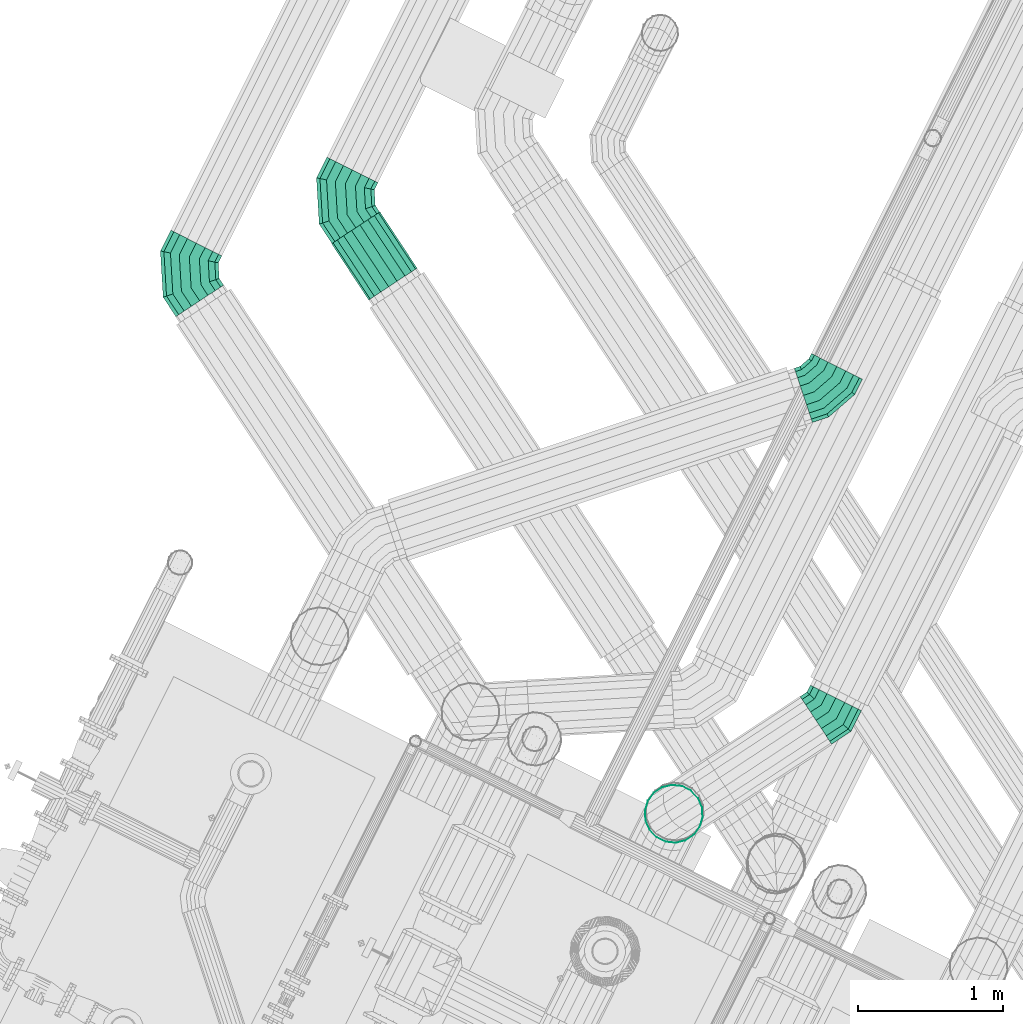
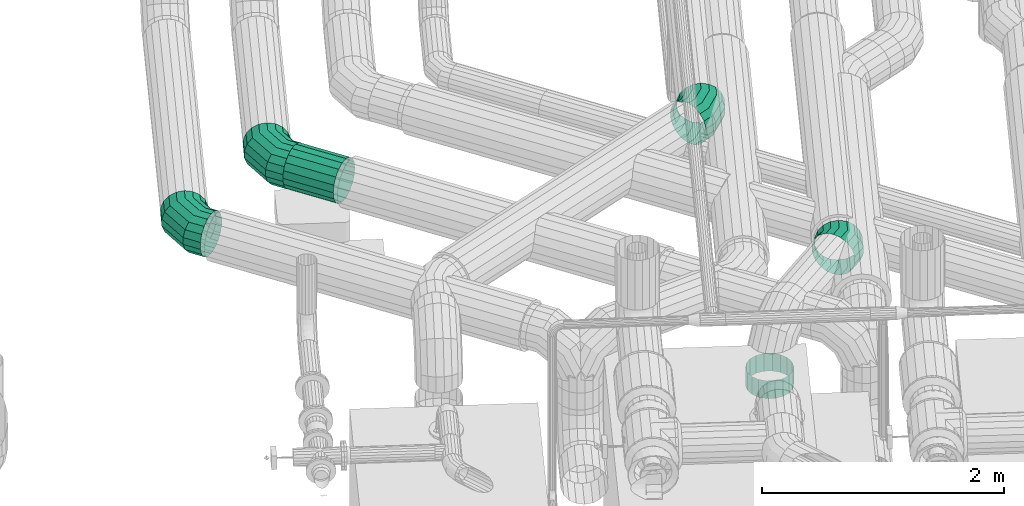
# One storey, part 136 of 206: 4 flow fittings, 2 flow segments.
"""IFC2X3 building model written with IfcOpenShell, lengths in metres."""

from ifc_helpers import new_model, si_unit, derived_unit, direction, frame, origin, place, context, subcontext, project, spatial, face_set, surface_model, source, transform, mapped, material, type_object, type_shapes, element, save


model = new_model("IFC2X3")

# Units and contexts
model_context = context("Model", 3, precision=5.2338327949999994e-05, world=origin(), true_north=direction((0.0, 1.0)))
body_context = subcontext(model_context, "Body", "Model", "MODEL_VIEW")
ifc_project = project(units=[si_unit("LENGTHUNIT", "METRE"), si_unit("AREAUNIT", "SQUARE_METRE"), si_unit("VOLUMEUNIT", "CUBIC_METRE"), si_unit("MASSUNIT", "GRAM", prefix="KILO"), si_unit("PLANEANGLEUNIT", "RADIAN"), derived_unit("THERMALTRANSMITTANCEUNIT", [(si_unit("MASSUNIT", "GRAM", prefix="KILO"), 1), (si_unit("THERMODYNAMICTEMPERATUREUNIT", "KELVIN"), -1), (si_unit("TIMEUNIT", "SECOND"), -3)])], contexts=[model_context])

# Site, building, storey
site_placement = place(None, frame((0.0, 0.0, 0.0), z_axis=(0.0, 0.0, 1.0), x_axis=(0.8939966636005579, -0.4480736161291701, 0.0)))
site = spatial("IfcSite", under=ifc_project, at=site_placement, Name="Default", CompositionType="ELEMENT")
building_placement = place(site_placement, origin())
building = spatial("IfcBuilding", under=site, at=building_placement, CompositionType="ELEMENT")
storey_placement = place(building_placement, origin())
storey = spatial("IfcBuildingStorey", under=building, at=storey_placement, Name="Erdgeschoss", CompositionType="ELEMENT", Elevation=0.0)

# Flow fittings
ifc_material = material(Name="IfcSurfaceStyle #251447")
distribution_element_type_1 = type_object("IfcDistributionElementType", Name="Segmentbogen 3 teilig:Segmentbogen 3 teilig", material=ifc_material)
shared_shape_1 = source(origin(), body_context, "Body", "SurfaceModel", [
    surface_model("IfcFaceBasedSurfaceModel", [(19.66102261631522, 10.128208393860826, 2.4000000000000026), (19.695224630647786, 10.187448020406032, 2.387938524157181), (19.61827751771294, 10.231873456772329, 2.387938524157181), (19.568202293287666, 10.181798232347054, 2.4000000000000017), (19.725301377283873, 10.239542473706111, 2.3532088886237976), (19.662312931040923, 10.275908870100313, 2.3532088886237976), (19.747625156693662, 10.278208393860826, 2.300000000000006), (19.69499721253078, 10.308593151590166, 2.300000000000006), (19.759503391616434, 10.298782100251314, 2.23472963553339), (19.7123881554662, 10.32598409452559, 2.23472963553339), (19.759503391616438, 10.298782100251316, 2.165270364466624), (19.7123881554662, 10.32598409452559, 2.165270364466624), (19.747625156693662, 10.278208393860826, 2.100000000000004), (19.694997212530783, 10.308593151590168, 2.100000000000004), (19.725301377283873, 10.239542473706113, 2.04679111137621), (19.662312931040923, 10.275908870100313, 2.04679111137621), (19.695224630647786, 10.187448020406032, 2.012061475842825), (19.61827751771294, 10.231873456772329, 2.012061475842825), (19.66102261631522, 10.128208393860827, 2.0), (19.568202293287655, 10.181798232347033, 2.0), (19.62682060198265, 10.068968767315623, 2.012061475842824), (19.51812706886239, 10.131723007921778, 2.012061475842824), (19.596743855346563, 10.016874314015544, 2.0467911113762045), (19.47409165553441, 10.087687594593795, 2.0467911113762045), (19.57442007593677, 9.978208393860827, 2.0999999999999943), (19.441407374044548, 10.055003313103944, 2.0999999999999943), (19.562541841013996, 9.957634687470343, 2.1652703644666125), (19.42401643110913, 10.037612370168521, 2.1652703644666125), (19.562541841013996, 9.957634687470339, 2.234729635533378), (19.42401643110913, 10.037612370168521, 2.234729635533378), (19.57442007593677, 9.978208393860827, 2.2999999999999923), (19.441407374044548, 10.055003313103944, 2.2999999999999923), (19.59674385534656, 10.016874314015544, 2.3532088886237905), (19.4740916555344, 10.087687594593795, 2.3532088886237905), (19.62682060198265, 10.06896876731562, 2.38793852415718), (19.51812706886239, 10.131723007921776, 2.3879385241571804), (19.529426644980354, 10.385767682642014, 2.3879385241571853), (19.461022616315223, 10.367438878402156, 2.4000000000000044), (19.589580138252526, 10.401885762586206, 2.353208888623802), (19.634227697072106, 10.413849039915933, 2.3000000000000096), (19.657984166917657, 10.42021456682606, 2.2347296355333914), (19.657984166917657, 10.42021456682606, 2.1652703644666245), (19.634227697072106, 10.413849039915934, 2.1000000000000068), (19.589580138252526, 10.401885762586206, 2.0467911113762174), (19.529426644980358, 10.385767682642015, 2.01206147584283), (19.461022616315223, 10.36743887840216, 2.0), (19.392618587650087, 10.3491100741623, 2.0120614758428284), (19.33246509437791, 10.332991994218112, 2.0467911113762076), (19.28781753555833, 10.321028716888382, 2.0999999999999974), (19.264061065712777, 10.314663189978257, 2.1652703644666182), (19.264061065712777, 10.314663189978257, 2.2347296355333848), (19.28781753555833, 10.321028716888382, 2.299999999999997), (19.33246509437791, 10.332991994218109, 2.353208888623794), (19.392618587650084, 10.349110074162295, 2.387938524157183), (19.529426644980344, 10.474618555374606, 2.3879385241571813), (19.461022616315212, 10.474618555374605, 2.399999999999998), (19.589580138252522, 10.474618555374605, 2.3532088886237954), (19.6342276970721, 10.474618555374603, 2.300000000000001), (19.657984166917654, 10.474618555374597, 2.2347296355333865), (19.657984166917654, 10.4746185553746, 2.1652703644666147), (19.6342276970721, 10.474618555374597, 2.0999999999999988), (19.589580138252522, 10.474618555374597, 2.0467911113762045), (19.529426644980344, 10.474618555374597, 2.0120614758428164), (19.46102261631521, 10.474618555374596, 2.0), (19.392618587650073, 10.474618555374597, 2.012061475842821), (19.332465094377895, 10.474618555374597, 2.046791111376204), (19.287817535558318, 10.4746185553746, 2.1000000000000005), (19.264061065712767, 10.474618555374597, 2.1652703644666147), (19.26406106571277, 10.4746185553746, 2.2347296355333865), (19.28781753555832, 10.474618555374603, 2.2999999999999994), (19.332465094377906, 10.474618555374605, 2.3532088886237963), (19.392618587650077, 10.474618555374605, 2.387938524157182)], [face_set([[[0, 1, 2, 3]], [[1, 4, 5, 2]], [[4, 6, 7, 5]], [[6, 8, 9, 7]], [[8, 10, 11, 9]], [[10, 12, 13, 11]], [[12, 14, 15, 13]], [[14, 16, 17, 15]], [[16, 18, 19, 17]], [[18, 20, 21, 19]], [[20, 22, 23, 21]], [[22, 24, 25, 23]], [[24, 26, 27, 25]], [[26, 28, 29, 27]], [[28, 30, 31, 29]], [[30, 32, 33, 31]], [[32, 34, 35, 33]], [[34, 0, 3, 35]], [[3, 2, 36, 37]], [[2, 5, 38, 36]], [[5, 7, 39, 38]], [[7, 9, 40, 39]], [[9, 11, 41, 40]], [[11, 13, 42, 41]], [[13, 15, 43, 42]], [[15, 17, 44, 43]], [[17, 19, 45, 44]], [[19, 21, 46, 45]], [[21, 23, 47, 46]], [[23, 25, 48, 47]], [[25, 27, 49, 48]], [[27, 29, 50, 49]], [[29, 31, 51, 50]], [[31, 33, 52, 51]], [[33, 35, 53, 52]], [[35, 3, 37, 53]], [[37, 36, 54, 55]], [[36, 38, 56, 54]], [[38, 39, 57, 56]], [[39, 40, 58, 57]], [[40, 41, 59, 58]], [[41, 42, 60, 59]], [[42, 43, 61, 60]], [[43, 44, 62, 61]], [[44, 45, 63, 62]], [[45, 46, 64, 63]], [[46, 47, 65, 64]], [[47, 48, 66, 65]], [[48, 49, 67, 66]], [[49, 50, 68, 67]], [[50, 51, 69, 68]], [[51, 52, 70, 69]], [[52, 53, 71, 70]], [[53, 37, 55, 71]]])]),
])
type_shapes(distribution_element_type_1, [shared_shape_1])
flow_fitting_1_placement = place(storey_placement, origin())
element("IfcFlowFitting", 1, at=flow_fitting_1_placement, inside=storey, type_object=distribution_element_type_1, material=ifc_material, Name="Segmentbogen 3 teilig", ObjectType="Segmentbogen 3 teilig", context=body_context, shape_type="MappedRepresentation", body=[
    mapped(shared_shape_1, transform((0.0, 0.0, 0.0), scale=1.0)),
])
distribution_element_type_2 = type_object("IfcDistributionElementType", Name="Segmentbogen 3 teilig 280972:Segmentbogen 3 teilig 280972", material=ifc_material)
shared_shape_2 = source(origin(), body_context, "Body", "SurfaceModel", [
    surface_model("IfcFaceBasedSurfaceModel", [(20.39823419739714, 11.062238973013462, 2.4000000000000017), (20.432436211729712, 11.121478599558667, 2.3879385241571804), (20.355489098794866, 11.165904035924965, 2.3879385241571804), (20.30541387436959, 11.115828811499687, 2.4000000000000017), (20.4625129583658, 11.173573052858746, 2.3532088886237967), (20.399524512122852, 11.209939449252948, 2.3532088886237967), (20.48483673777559, 11.212238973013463, 2.3000000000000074), (20.43220879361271, 11.2426237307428, 2.3000000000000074), (20.496714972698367, 11.232812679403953, 2.234729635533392), (20.449599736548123, 11.260014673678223, 2.234729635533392), (20.496714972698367, 11.23281267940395, 2.165270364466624), (20.449599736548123, 11.260014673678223, 2.165270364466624), (20.48483673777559, 11.212238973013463, 2.100000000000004), (20.43220879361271, 11.2426237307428, 2.100000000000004), (20.4625129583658, 11.173573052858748, 2.0467911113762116), (20.399524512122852, 11.20993944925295, 2.0467911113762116), (20.432436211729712, 11.12147859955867, 2.012061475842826), (20.35548909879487, 11.165904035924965, 2.012061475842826), (20.39823419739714, 11.062238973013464, 2.0), (20.305413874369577, 11.115828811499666, 2.0), (20.364032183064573, 11.002999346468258, 2.012061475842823), (20.255338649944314, 11.065753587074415, 2.012061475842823), (20.333955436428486, 10.950904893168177, 2.0467911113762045), (20.211303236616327, 11.021718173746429, 2.0467911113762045), (20.311631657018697, 10.912238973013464, 2.099999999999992), (20.17861895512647, 10.989033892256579, 2.099999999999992), (20.299753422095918, 10.891665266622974, 2.1652703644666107), (20.161228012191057, 10.971642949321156, 2.1652703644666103), (20.299753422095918, 10.89166526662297, 2.234729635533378), (20.161228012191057, 10.971642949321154, 2.234729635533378), (20.311631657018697, 10.912238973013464, 2.2999999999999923), (20.17861895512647, 10.989033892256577, 2.2999999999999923), (20.333955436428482, 10.950904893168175, 2.3532088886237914), (20.211303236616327, 11.021718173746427, 2.3532088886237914), (20.364032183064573, 11.002999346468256, 2.387938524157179), (20.255338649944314, 11.065753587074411, 2.387938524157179), (20.26663822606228, 11.319798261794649, 2.3879385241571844), (20.198234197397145, 11.301469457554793, 2.400000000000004), (20.326791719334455, 11.33591634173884, 2.3532088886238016), (20.37143927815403, 11.34787961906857, 2.3000000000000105), (20.395195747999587, 11.354245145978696, 2.234729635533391), (20.395195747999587, 11.354245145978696, 2.1652703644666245), (20.371439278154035, 11.34787961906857, 2.1000000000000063), (20.326791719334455, 11.335916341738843, 2.046791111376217), (20.26663822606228, 11.31979826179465, 2.0120614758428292), (20.198234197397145, 11.301469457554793, 2.0), (20.129830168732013, 11.283140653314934, 2.0120614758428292), (20.06967667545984, 11.267022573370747, 2.046791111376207), (20.025029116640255, 11.255059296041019, 2.0999999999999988), (20.001272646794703, 11.24869376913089, 2.16527036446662), (20.001272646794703, 11.24869376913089, 2.2347296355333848), (20.025029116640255, 11.255059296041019, 2.299999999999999), (20.06967667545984, 11.267022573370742, 2.353208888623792), (20.12983016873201, 11.283140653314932, 2.3879385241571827), (20.266638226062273, 11.408649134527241, 2.3879385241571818), (20.198234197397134, 11.408649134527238, 2.399999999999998), (20.32679171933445, 11.408649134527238, 2.3532088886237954), (20.371439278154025, 11.408649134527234, 2.300000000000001), (20.39519574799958, 11.408649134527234, 2.2347296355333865), (20.39519574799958, 11.408649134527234, 2.1652703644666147), (20.371439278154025, 11.408649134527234, 2.1000000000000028), (20.326791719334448, 11.408649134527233, 2.046791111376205), (20.266638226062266, 11.408649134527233, 2.0120614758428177), (20.19823419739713, 11.40864913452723, 2.0), (20.129830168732, 11.408649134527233, 2.0120614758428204), (20.06967667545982, 11.408649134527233, 2.0467911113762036), (20.025029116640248, 11.408649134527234, 2.099999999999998), (20.001272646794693, 11.408649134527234, 2.1652703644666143), (20.001272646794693, 11.408649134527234, 2.2347296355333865), (20.025029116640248, 11.408649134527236, 2.300000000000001), (20.06967667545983, 11.408649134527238, 2.3532088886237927), (20.129830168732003, 11.408649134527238, 2.3879385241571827)], [face_set([[[0, 1, 2, 3]], [[1, 4, 5, 2]], [[4, 6, 7, 5]], [[6, 8, 9, 7]], [[8, 10, 11, 9]], [[10, 12, 13, 11]], [[12, 14, 15, 13]], [[14, 16, 17, 15]], [[16, 18, 19, 17]], [[18, 20, 21, 19]], [[20, 22, 23, 21]], [[22, 24, 25, 23]], [[24, 26, 27, 25]], [[26, 28, 29, 27]], [[28, 30, 31, 29]], [[30, 32, 33, 31]], [[32, 34, 35, 33]], [[34, 0, 3, 35]], [[3, 2, 36, 37]], [[2, 5, 38, 36]], [[5, 7, 39, 38]], [[7, 9, 40, 39]], [[9, 11, 41, 40]], [[11, 13, 42, 41]], [[13, 15, 43, 42]], [[15, 17, 44, 43]], [[17, 19, 45, 44]], [[19, 21, 46, 45]], [[21, 23, 47, 46]], [[23, 25, 48, 47]], [[25, 27, 49, 48]], [[27, 29, 50, 49]], [[29, 31, 51, 50]], [[31, 33, 52, 51]], [[33, 35, 53, 52]], [[35, 3, 37, 53]], [[37, 36, 54, 55]], [[36, 38, 56, 54]], [[38, 39, 57, 56]], [[39, 40, 58, 57]], [[40, 41, 59, 58]], [[41, 42, 60, 59]], [[42, 43, 61, 60]], [[43, 44, 62, 61]], [[44, 45, 63, 62]], [[45, 46, 64, 63]], [[46, 47, 65, 64]], [[47, 48, 66, 65]], [[48, 49, 67, 66]], [[49, 50, 68, 67]], [[50, 51, 69, 68]], [[51, 52, 70, 69]], [[52, 53, 71, 70]], [[53, 37, 55, 71]]])]),
])
type_shapes(distribution_element_type_2, [shared_shape_2])
flow_fitting_2_placement = place(storey_placement, origin())
element("IfcFlowFitting", 2, at=flow_fitting_2_placement, inside=storey, type_object=distribution_element_type_2, material=ifc_material, Name="Segmentbogen 3 teilig", ObjectType="Segmentbogen 3 teilig", context=body_context, shape_type="MappedRepresentation", body=[
    mapped(shared_shape_2, transform((0.0, 0.0, 0.0), scale=1.0)),
])

# Flow segment
distribution_element_type_3 = type_object("IfcDistributionElementType", Name="Wickelfalzrohr 280995:Wickelfalzrohr 280995", material=ifc_material)
shared_shape_3 = source(origin(), body_context, "Body", "SurfaceModel", [
    surface_model("IfcFaceBasedSurfaceModel", [(20.701400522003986, 10.656265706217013, 2.2), (20.707431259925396, 10.666711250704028, 2.2684040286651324), (20.30426493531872, 10.899479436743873, 2.268404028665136), (20.2982341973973, 10.889033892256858, 2.2000000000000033), (20.724796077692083, 10.696787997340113, 2.3285575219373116), (20.321629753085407, 10.929556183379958, 2.32855752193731), (20.75140052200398, 10.74286824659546, 2.373205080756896), (20.34823419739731, 10.975636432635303, 2.3732050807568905), (20.78403570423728, 10.799394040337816, 2.396961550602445), (20.380869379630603, 11.03216222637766, 2.396961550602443), (20.81876533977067, 10.85954753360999, 2.3969615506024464), (20.415599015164, 11.09231571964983, 2.396961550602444), (20.851400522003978, 10.916073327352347, 2.373205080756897), (20.448234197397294, 11.14884151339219, 2.373205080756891), (20.87800496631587, 10.962153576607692, 2.3285575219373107), (20.474838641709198, 11.194921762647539, 2.328557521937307), (20.89536978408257, 10.992230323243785, 2.26840402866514), (20.492203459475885, 11.224998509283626, 2.2684040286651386), (20.901400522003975, 11.002675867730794, 2.2000000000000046), (20.49823419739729, 11.235444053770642, 2.2000000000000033), (20.89536978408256, 10.992230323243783, 2.1315959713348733), (20.492203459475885, 11.224998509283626, 2.131595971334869), (20.87800496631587, 10.962153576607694, 2.0714424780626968), (20.474838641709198, 11.194921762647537, 2.0714424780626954), (20.851400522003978, 10.916073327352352, 2.0267949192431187), (20.448234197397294, 11.148841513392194, 2.0267949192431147), (20.81876533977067, 10.859547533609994, 2.003038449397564), (20.415599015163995, 11.092315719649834, 2.00303844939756), (20.78403570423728, 10.799394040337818, 2.0030384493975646), (20.380869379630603, 11.032162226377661, 2.0030384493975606), (20.75140052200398, 10.742868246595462, 2.0267949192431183), (20.348234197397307, 10.975636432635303, 2.0267949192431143), (20.724796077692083, 10.696787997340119, 2.0714424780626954), (20.321629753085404, 10.929556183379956, 2.071442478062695), (20.707431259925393, 10.666711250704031, 2.1315959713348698), (20.30426493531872, 10.899479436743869, 2.1315959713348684)], [face_set([[[0, 1, 2, 3]], [[1, 4, 5, 2]], [[4, 6, 7, 5]], [[6, 8, 9, 7]], [[8, 10, 11, 9]], [[10, 12, 13, 11]], [[12, 14, 15, 13]], [[14, 16, 17, 15]], [[16, 18, 19, 17]], [[18, 20, 21, 19]], [[20, 22, 23, 21]], [[22, 24, 25, 23]], [[24, 26, 27, 25]], [[26, 28, 29, 27]], [[28, 30, 31, 29]], [[30, 32, 33, 31]], [[32, 34, 35, 33]], [[34, 0, 3, 35]]])]),
])
type_shapes(distribution_element_type_3, [shared_shape_3])
flow_segment_1_placement = place(storey_placement, origin())
element("IfcFlowSegment", 3, at=flow_segment_1_placement, inside=storey, type_object=distribution_element_type_3, material=ifc_material, Name="Wickelfalzrohr", ObjectType="Wickelfalzrohr", context=body_context, shape_type="MappedRepresentation", body=[
    mapped(shared_shape_3, transform((0.0, 0.0, 0.0), scale=1.0)),
])

# Flow fittings
distribution_element_type_4 = type_object("IfcDistributionElementType", Name="Segmentbogen 2 teilig 620470:Segmentbogen 2 teilig 620470", material=ifc_material)
shared_shape_4 = source(origin(), body_context, "Body", "SurfaceModel", [
    surface_model("IfcFaceBasedSurfaceModel", [(24.81570478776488, 9.64543015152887, 2.4600000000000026), (24.747300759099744, 9.64543015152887, 2.4479385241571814), (24.747300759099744, 9.556579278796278, 2.4479385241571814), (24.81570478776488, 9.53825047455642, 2.4600000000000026), (24.687147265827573, 9.64543015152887, 2.4132088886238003), (24.687147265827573, 9.572697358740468, 2.4132088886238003), (24.642499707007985, 9.64543015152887, 2.360000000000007), (24.642499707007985, 9.584660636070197, 2.360000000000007), (24.618743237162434, 9.64543015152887, 2.294729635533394), (24.618743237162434, 9.591026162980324, 2.294729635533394), (24.618743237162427, 9.64543015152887, 2.2252703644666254), (24.618743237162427, 9.591026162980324, 2.2252703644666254), (24.642499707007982, 9.64543015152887, 2.1600000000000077), (24.642499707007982, 9.584660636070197, 2.1600000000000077), (24.68714726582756, 9.64543015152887, 2.1067911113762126), (24.68714726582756, 9.572697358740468, 2.1067911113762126), (24.74730075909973, 9.64543015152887, 2.0720614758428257), (24.74730075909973, 9.55657927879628, 2.0720614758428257), (24.815704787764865, 9.64543015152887, 2.0600000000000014), (24.815704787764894, 9.53825047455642, 2.0600000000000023), (24.884108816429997, 9.64543015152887, 2.0720614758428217), (24.884108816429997, 9.519921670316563, 2.0720614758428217), (24.94426230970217, 9.64543015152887, 2.1067911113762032), (24.94426230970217, 9.503803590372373, 2.1067911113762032), (24.98890986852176, 9.64543015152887, 2.159999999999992), (24.98890986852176, 9.491840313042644, 2.159999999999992), (25.012666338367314, 9.64543015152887, 2.225270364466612), (25.012666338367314, 9.485474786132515, 2.225270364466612), (25.012666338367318, 9.64543015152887, 2.2947296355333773), (25.012666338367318, 9.485474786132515, 2.2947296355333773), (24.988909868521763, 9.64543015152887, 2.3599999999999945), (24.988909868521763, 9.491840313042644, 2.3599999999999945), (24.94426230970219, 9.64543015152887, 2.4132088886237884), (24.94426230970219, 9.503803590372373, 2.4132088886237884), (24.884108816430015, 9.64543015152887, 2.4479385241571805), (24.884108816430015, 9.519921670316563, 2.4479385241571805), (24.702875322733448, 9.479632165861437, 2.447938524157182), (24.762114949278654, 9.445430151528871, 2.4599999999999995), (24.650780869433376, 9.509708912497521, 2.4132088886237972), (24.612114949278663, 9.532032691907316, 2.3600000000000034), (24.59154124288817, 9.543910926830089, 2.294729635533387), (24.591541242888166, 9.54391092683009, 2.225270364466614), (24.612114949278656, 9.532032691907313, 2.16), (24.650780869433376, 9.509708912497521, 2.106791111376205), (24.70287532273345, 9.479632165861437, 2.072061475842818), (24.762114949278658, 9.445430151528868, 2.06), (24.821354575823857, 9.411228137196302, 2.0720614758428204), (24.873449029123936, 9.38115139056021, 2.1067911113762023), (24.912114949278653, 9.358827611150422, 2.16), (24.932688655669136, 9.346949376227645, 2.2252703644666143), (24.932688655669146, 9.346949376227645, 2.2947296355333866), (24.912114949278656, 9.358827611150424, 2.360000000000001), (24.873449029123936, 9.381151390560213, 2.4132088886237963), (24.821354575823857, 9.411228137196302, 2.4479385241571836)], [face_set([[[0, 1, 2, 3]], [[1, 4, 5, 2]], [[4, 6, 7, 5]], [[6, 8, 9, 7]], [[8, 10, 11, 9]], [[10, 12, 13, 11]], [[12, 14, 15, 13]], [[14, 16, 17, 15]], [[16, 18, 19, 17]], [[18, 20, 21, 19]], [[20, 22, 23, 21]], [[22, 24, 25, 23]], [[24, 26, 27, 25]], [[26, 28, 29, 27]], [[28, 30, 31, 29]], [[30, 32, 33, 31]], [[32, 34, 35, 33]], [[34, 0, 3, 35]], [[3, 2, 36, 37]], [[2, 5, 38, 36]], [[5, 7, 39, 38]], [[7, 9, 40, 39]], [[9, 11, 41, 40]], [[11, 13, 42, 41]], [[13, 15, 43, 42]], [[15, 17, 44, 43]], [[17, 19, 45, 44]], [[19, 21, 46, 45]], [[21, 23, 47, 46]], [[23, 25, 48, 47]], [[25, 27, 49, 48]], [[27, 29, 50, 49]], [[29, 31, 51, 50]], [[31, 33, 52, 51]], [[33, 35, 53, 52]], [[35, 3, 37, 53]]])]),
])
type_shapes(distribution_element_type_4, [shared_shape_4])
flow_fitting_3_placement = place(storey_placement, origin())
element("IfcFlowFitting", 4, at=flow_fitting_3_placement, inside=storey, type_object=distribution_element_type_4, material=ifc_material, Name="Segmentbogen 2 teilig", ObjectType="Segmentbogen 2 teilig", context=body_context, shape_type="MappedRepresentation", body=[
    mapped(shared_shape_4, transform((0.0, 0.0, 0.0), scale=1.0)),
])
distribution_element_type_5 = type_object("IfcDistributionElementType", Name="Segmentbogen 3 teilig 621520:Segmentbogen 3 teilig 621520", material=ifc_material)
shared_shape_5 = source(origin(), body_context, "Body", "SurfaceModel", [
    surface_model("IfcFaceBasedSurfaceModel", [(23.679425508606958, 11.41237144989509, 2.05), (23.631056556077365, 11.460740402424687, 2.062061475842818), (23.677696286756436, 11.507380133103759, 2.0620614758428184), (23.735686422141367, 11.4686323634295, 2.050000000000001), (23.58852161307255, 11.503275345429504, 2.096791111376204), (23.62670061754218, 11.541454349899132, 2.0967911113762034), (23.5569510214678, 11.534845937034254, 2.15), (23.588850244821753, 11.566745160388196, 2.1499999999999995), (23.540152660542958, 11.5516442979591, 2.2152703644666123), (23.568710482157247, 11.580202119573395, 2.215270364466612), (23.540152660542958, 11.5516442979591, 2.2847296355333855), (23.56871048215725, 11.580202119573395, 2.284729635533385), (23.5569510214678, 11.534845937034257, 2.3500000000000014), (23.588850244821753, 11.566745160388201, 2.3500000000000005), (23.58852161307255, 11.503275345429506, 2.4032088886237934), (23.62670061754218, 11.541454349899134, 2.4032088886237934), (23.63105655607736, 11.460740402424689, 2.437938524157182), (23.677696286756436, 11.50738013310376, 2.4379385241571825), (23.679425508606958, 11.412371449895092, 2.45), (23.735686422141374, 11.468632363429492, 2.4499999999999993), (23.72779446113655, 11.364002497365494, 2.4379385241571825), (23.793676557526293, 11.429884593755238, 2.4379385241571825), (23.770329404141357, 11.32146755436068, 2.4032088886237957), (23.844672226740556, 11.395810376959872, 2.4032088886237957), (23.80189999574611, 11.289896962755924, 2.350000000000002), (23.882522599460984, 11.370519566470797, 2.3500000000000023), (23.81869835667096, 11.273098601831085, 2.2847296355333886), (23.902662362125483, 11.357062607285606, 2.2847296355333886), (23.81869835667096, 11.273098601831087, 2.215270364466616), (23.90266236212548, 11.357062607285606, 2.2152703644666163), (23.80189999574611, 11.289896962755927, 2.150000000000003), (23.882522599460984, 11.370519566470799, 2.150000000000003), (23.770329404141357, 11.32146755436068, 2.0967911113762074), (23.84467222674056, 11.39581037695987, 2.096791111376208), (23.72779446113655, 11.364002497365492, 2.062061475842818), (23.793676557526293, 11.429884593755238, 2.0620614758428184), (23.72817876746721, 11.629255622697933, 2.062061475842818), (23.79658279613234, 11.615649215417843, 2.05), (23.668025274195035, 11.641220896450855, 2.096791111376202), (23.62337771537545, 11.650101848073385, 2.1500000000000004), (23.599621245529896, 11.654827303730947, 2.215270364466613), (23.599621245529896, 11.654827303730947, 2.2847296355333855), (23.62337771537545, 11.650101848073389, 2.3500000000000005), (23.66802527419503, 11.641220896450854, 2.4032088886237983), (23.72817876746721, 11.629255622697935, 2.4379385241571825), (23.79658279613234, 11.615649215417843, 2.4499999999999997), (23.864986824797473, 11.602042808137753, 2.437938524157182), (23.92514031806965, 11.59007753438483, 2.4032088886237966), (23.969787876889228, 11.5811965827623, 2.3499999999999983), (23.99354434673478, 11.576471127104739, 2.2847296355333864), (23.993544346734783, 11.576471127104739, 2.2152703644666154), (23.96978787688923, 11.5811965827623, 2.1499999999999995), (23.92514031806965, 11.590077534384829, 2.096791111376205), (23.864986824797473, 11.602042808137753, 2.0620614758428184), (23.72817876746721, 11.695214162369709, 2.0620614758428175), (23.79658279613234, 11.695214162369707, 2.05), (23.66802527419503, 11.695214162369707, 2.0967911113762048), (23.62337771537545, 11.69521416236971, 2.149999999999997), (23.599621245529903, 11.69521416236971, 2.2152703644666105), (23.599621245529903, 11.69521416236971, 2.2847296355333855), (23.62337771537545, 11.695214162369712, 2.349999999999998), (23.668025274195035, 11.695214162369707, 2.4032088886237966), (23.72817876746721, 11.695214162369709, 2.4379385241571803), (23.79658279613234, 11.695214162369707, 2.4499999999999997), (23.864986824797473, 11.695214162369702, 2.4379385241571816), (23.92514031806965, 11.695214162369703, 2.4032088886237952), (23.96978787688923, 11.695214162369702, 2.3500000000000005), (23.993544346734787, 11.6952141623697, 2.284729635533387), (23.993544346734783, 11.695214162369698, 2.2152703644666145), (23.969787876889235, 11.695214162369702, 2.150000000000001), (23.925140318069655, 11.695214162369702, 2.0967911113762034), (23.864986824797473, 11.695214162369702, 2.062061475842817)], [face_set([[[0, 1, 2, 3]], [[1, 4, 5, 2]], [[4, 6, 7, 5]], [[6, 8, 9, 7]], [[8, 10, 11, 9]], [[10, 12, 13, 11]], [[12, 14, 15, 13]], [[14, 16, 17, 15]], [[16, 18, 19, 17]], [[18, 20, 21, 19]], [[20, 22, 23, 21]], [[22, 24, 25, 23]], [[24, 26, 27, 25]], [[26, 28, 29, 27]], [[28, 30, 31, 29]], [[30, 32, 33, 31]], [[32, 34, 35, 33]], [[34, 0, 3, 35]], [[3, 2, 36, 37]], [[2, 5, 38, 36]], [[5, 7, 39, 38]], [[7, 9, 40, 39]], [[9, 11, 41, 40]], [[11, 13, 42, 41]], [[13, 15, 43, 42]], [[15, 17, 44, 43]], [[17, 19, 45, 44]], [[19, 21, 46, 45]], [[21, 23, 47, 46]], [[23, 25, 48, 47]], [[25, 27, 49, 48]], [[27, 29, 50, 49]], [[29, 31, 51, 50]], [[31, 33, 52, 51]], [[33, 35, 53, 52]], [[35, 3, 37, 53]], [[37, 36, 54, 55]], [[36, 38, 56, 54]], [[38, 39, 57, 56]], [[39, 40, 58, 57]], [[40, 41, 59, 58]], [[41, 42, 60, 59]], [[42, 43, 61, 60]], [[43, 44, 62, 61]], [[44, 45, 63, 62]], [[45, 46, 64, 63]], [[46, 47, 65, 64]], [[47, 48, 66, 65]], [[48, 49, 67, 66]], [[49, 50, 68, 67]], [[50, 51, 69, 68]], [[51, 52, 70, 69]], [[52, 53, 71, 70]], [[53, 37, 55, 71]]])]),
])
type_shapes(distribution_element_type_5, [shared_shape_5])
flow_fitting_4_placement = place(storey_placement, origin())
element("IfcFlowFitting", 5, at=flow_fitting_4_placement, inside=storey, type_object=distribution_element_type_5, material=ifc_material, Name="Segmentbogen 3 teilig", ObjectType="Segmentbogen 3 teilig", context=body_context, shape_type="MappedRepresentation", body=[
    mapped(shared_shape_5, transform((0.0, 0.0, 0.0), scale=1.0)),
])

# Flow segment
distribution_element_type_6 = type_object("IfcDistributionElementType", Name="Muffe 622019:Muffe 622019", material=ifc_material)
shared_shape_6 = source(origin(), body_context, "Body", "SurfaceModel", [
    surface_model("IfcFaceBasedSurfaceModel", [(23.974821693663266, 8.428208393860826, 1.6799999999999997), (23.98688316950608, 8.359804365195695, 1.6799999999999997), (23.98688316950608, 8.359804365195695, 1.8599999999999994), (23.974821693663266, 8.42820839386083, 1.8599999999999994), (24.021612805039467, 8.299650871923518, 1.6799999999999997), (24.021612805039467, 8.29965087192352, 1.8599999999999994), (24.07482169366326, 8.25500331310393, 1.6799999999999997), (24.074821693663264, 8.25500331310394, 1.8599999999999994), (24.140092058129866, 8.231246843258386, 1.6799999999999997), (24.140092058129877, 8.23124684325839, 1.8599999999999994), (24.209551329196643, 8.231246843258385, 1.6799999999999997), (24.20955132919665, 8.231246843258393, 1.8599999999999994), (24.274821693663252, 8.255003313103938, 1.6799999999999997), (24.274821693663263, 8.25500331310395, 1.8599999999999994), (24.328030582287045, 8.299650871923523, 1.6799999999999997), (24.328030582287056, 8.299650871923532, 1.8599999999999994), (24.362760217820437, 8.359804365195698, 1.6799999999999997), (24.36276021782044, 8.359804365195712, 1.8599999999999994), (24.374821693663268, 8.42820839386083, 1.6799999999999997), (24.374821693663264, 8.428208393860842, 1.8599999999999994), (24.36276021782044, 8.496612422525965, 1.6799999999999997), (24.36276021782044, 8.496612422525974, 1.8599999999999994), (24.328030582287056, 8.556765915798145, 1.6799999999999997), (24.32803058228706, 8.556765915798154, 1.8599999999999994), (24.274821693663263, 8.60141347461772, 1.6799999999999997), (24.274821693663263, 8.60141347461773, 1.8599999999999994), (24.20955132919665, 8.62516994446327, 1.6799999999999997), (24.20955132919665, 8.625169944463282, 1.8599999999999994), (24.14009205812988, 8.62516994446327, 1.6799999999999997), (24.140092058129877, 8.625169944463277, 1.8599999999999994), (24.074821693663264, 8.601413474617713, 1.6799999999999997), (24.074821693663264, 8.601413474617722, 1.8599999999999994), (24.02161280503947, 8.55676591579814, 1.6799999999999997), (24.02161280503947, 8.556765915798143, 1.8599999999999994), (23.98688316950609, 8.496612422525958, 1.6799999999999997), (23.98688316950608, 8.496612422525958, 1.8599999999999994)], [face_set([[[0, 1, 2, 3]], [[1, 4, 5, 2]], [[4, 6, 7, 5]], [[6, 8, 9, 7]], [[8, 10, 11, 9]], [[10, 12, 13, 11]], [[12, 14, 15, 13]], [[14, 16, 17, 15]], [[16, 18, 19, 17]], [[18, 20, 21, 19]], [[20, 22, 23, 21]], [[22, 24, 25, 23]], [[24, 26, 27, 25]], [[26, 28, 29, 27]], [[28, 30, 31, 29]], [[30, 32, 33, 31]], [[32, 34, 35, 33]], [[34, 0, 3, 35]]])]),
])
type_shapes(distribution_element_type_6, [shared_shape_6])
flow_segment_2_placement = place(storey_placement, origin())
element("IfcFlowSegment", 6, at=flow_segment_2_placement, inside=storey, type_object=distribution_element_type_6, material=ifc_material, Name="Muffe", ObjectType="Muffe", context=body_context, shape_type="MappedRepresentation", body=[
    mapped(shared_shape_6, transform((0.0, 0.0, 0.0), scale=1.0)),
])

save(model, "model.ifc")
